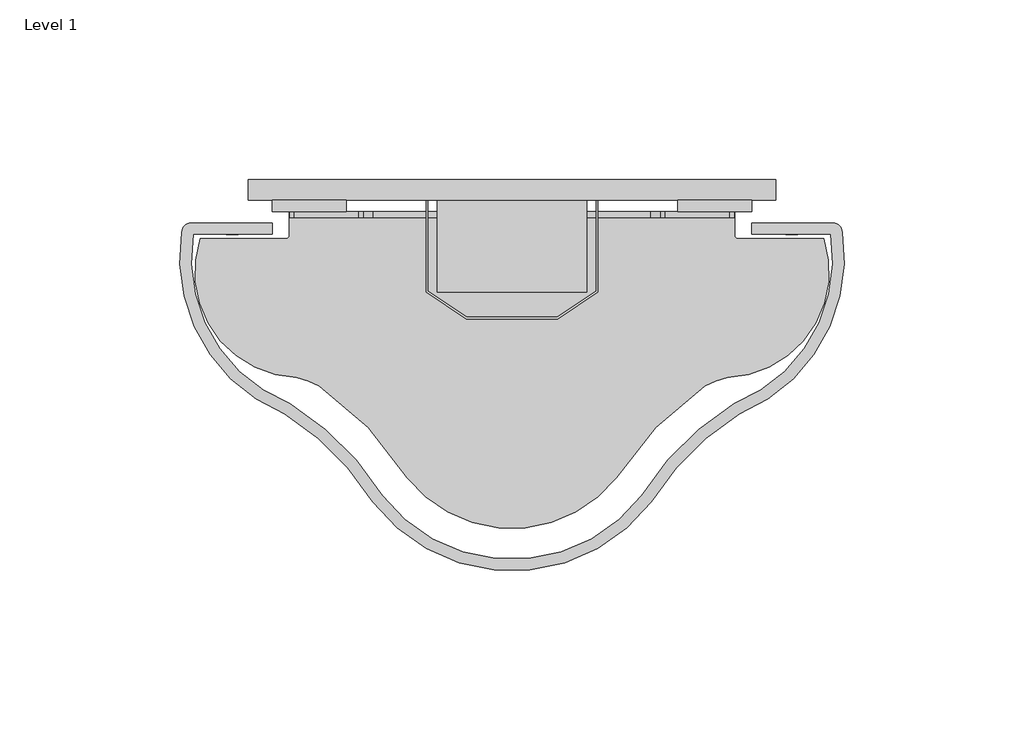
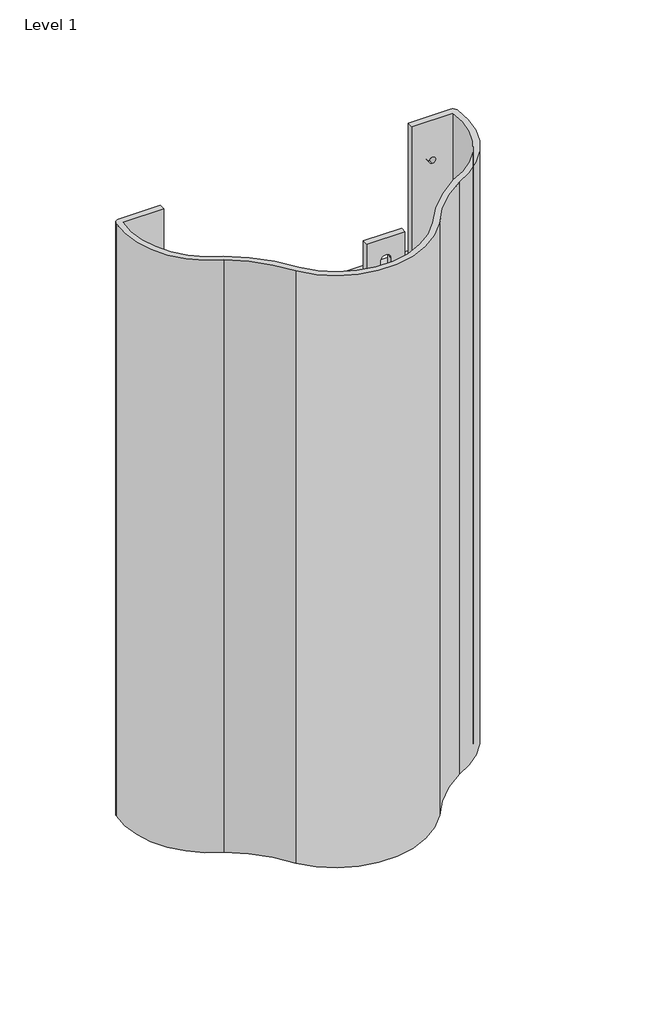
# One storey, incomplete: 2 proxies.
"""IFC4 building model written with IfcOpenShell, lengths in millimetres."""

from ifc_helpers import new_model, si_unit, point, frame, frame_2d, origin, origin_with_axes, place, context, project, spatial, polyline, circle_curve, trimmed, segment, composite_curve, outline, extrude, faceted_brep, element, save
from ifc_brep_helpers import plane_surface, cylinder_surface, revolved_surface, advanced_brep

model = new_model("IFC4")

# Units and contexts
model_context = context("Model", 3, world=origin())
ifc_project = project(units=[si_unit("LENGTHUNIT", "METRE", prefix="MILLI")], contexts=[model_context])

# Site, building, storey
site = spatial("IfcSite", under=ifc_project)
building = spatial("IfcBuilding", under=site)
storey = spatial("IfcBuildingStorey", under=building, Name="Level 1", Elevation=0.0)

# Proxies
placement = place(None, origin())
element("IfcBuildingElementProxy", 1, Name="Form : Form", ObjectType="Form : Form", at=placement, inside=storey, context=model_context, shape_type="AdvancedBrep", body=[
    advanced_brep(
    [(-91.7624814, -90.7354097, 336.4992), (-89.2402248, -88.2131532, 336.4992), (-89.2402248, -88.2131532, 0.0), (-91.7624814, -90.7354097, 0.0), (-63.2292352, -141.3534747, 0.0), (-63.2292352, -141.3534747, 336.4992), (-38.7547952, -165.8279147, 0.0), (-38.7547952, -165.8279147, 336.4992), (38.7478071, -165.8279147, 0.0), (38.7478071, -165.8279147, 336.4992), (63.2222471, -141.3534747, 0.0), (63.2222471, -141.3534747, 336.4992), (91.7554933, -90.7354097, 0.0), (91.7554933, -90.7354097, 336.4992), (89.2332368, -88.2131532, 0.0), (89.2332368, -88.2131532, 336.4992), (66.6602933, -88.2131532, 0.0), (66.6602933, -88.2131532, 336.4992), (77.7946873, -88.2131532, 311.804606), (77.7946873, -88.2131532, 315.208206), (77.7946873, -88.2131532, 172.104606), (77.7946873, -88.2131532, 175.508206), (77.7946873, -88.2131532, 32.404606), (77.7946873, -88.2131532, 35.808206), (-66.6672814, -88.2131532, 336.4992), (-66.6672814, -88.2131532, 0.0), (-77.8016753, -88.2131532, 315.208206), (-77.8016753, -88.2131532, 311.804606), (-77.8016753, -88.2131532, 175.508206), (-77.8016753, -88.2131532, 172.104606), (-77.8016753, -88.2131532, 35.808206), (-77.8016753, -88.2131532, 32.404606), (-66.6672814, -91.3881532, 0.0), (-88.6514364, -91.3881532, 0.0), (-61.7948182, -138.5079633, 0.0), (-36.1385371, -164.0223625, 0.0), (36.1315491, -164.0223625, 0.0), (61.7878301, -138.5079633, 0.0), (88.6444484, -91.3881532, 0.0), (66.6602933, -91.3881532, 0.0), (66.6602933, -91.3881532, 336.4992), (88.6444484, -91.3881532, 336.4992), (61.7878301, -138.5079633, 336.4992), (36.1315491, -164.0223625, 336.4992), (-36.1385371, -164.0223625, 336.4992), (-61.7948182, -138.5079633, 336.4992), (-88.6514364, -91.3881532, 336.4992), (-66.6672814, -91.3881532, 336.4992), (-77.8016753, -91.3881532, 311.804606), (-77.8016753, -91.3881532, 315.208206), (-77.8016753, -91.3881532, 172.104606), (-77.8016753, -91.3881532, 175.508206), (-77.8016753, -91.3881532, 32.404606), (-77.8016753, -91.3881532, 35.808206), (77.7946873, -91.3881532, 315.208206), (77.7946873, -91.3881532, 311.804606), (77.7946873, -91.3881532, 175.508206), (77.7946873, -91.3881532, 172.104606), (77.7946873, -91.3881532, 35.808206), (77.7946873, -91.3881532, 32.404606)],
    [
        (0, 1, circle_curve(frame((-89.2402248, -90.7354097, 336.4992), z_axis=(0.0, 0.0, -1.0), x_axis=(0.0, 1.0, 0.0)), 2.5222565)),
        (1, 2),
        (2, 3, circle_curve(frame((-89.2402248, -90.7354097, 0.0), z_axis=(0.0, 0.0, 1.0), x_axis=(0.0, 1.0, 0.0)), 2.5222565)),
        (3, 0),
        (3, 4, circle_curve(frame((-45.7464829, -98.1474179, 0.0), z_axis=(0.0, 0.0, 1.0), x_axis=(-0.9269872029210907, 0.37509295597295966, 0.0)), 46.609119)),
        (4, 5),
        (5, 0, circle_curve(frame((-45.7464829, -98.1474179, 336.4992), z_axis=(0.0, 0.0, -1.0), x_axis=(-0.9269872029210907, 0.37509295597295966, 0.0)), 46.609119)),
        (4, 6, circle_curve(frame((-102.950175, -205.5488546, 0.0), z_axis=(0.0, 0.0, -1.0), x_axis=(-0.526172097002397, 0.8503781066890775, 0.0)), 75.4903958)),
        (6, 7),
        (7, 5, circle_curve(frame((-102.950175, -205.5488546, 336.4992), z_axis=(0.0, 0.0, 1.0), x_axis=(-0.526172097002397, 0.8503781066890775, 0.0)), 75.4903958)),
        (6, 8, circle_curve(frame((-0.003494, -136.2831049, 0.0), z_axis=(0.0, 0.0, 1.0), x_axis=(-0.6063029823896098, -0.7952337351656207, 0.0)), 48.7294482)),
        (8, 9),
        (9, 7, circle_curve(frame((-0.003494, -136.2831049, 336.4992), z_axis=(0.0, 0.0, -1.0), x_axis=(-0.6063029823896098, -0.7952337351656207, 0.0)), 48.7294482)),
        (8, 10, circle_curve(frame((102.943187, -205.5488546, 0.0), z_axis=(0.0, 0.0, -1.0), x_axis=(-0.8503781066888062, -0.5261720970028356, 0.0)), 75.4903958)),
        (10, 11),
        (11, 9, circle_curve(frame((102.943187, -205.5488546, 336.4992), z_axis=(0.0, 0.0, 1.0), x_axis=(-0.8503781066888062, -0.5261720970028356, 0.0)), 75.4903958)),
        (10, 12, circle_curve(frame((45.7394949, -98.1474179, 0.0), z_axis=(0.0, 0.0, 1.0), x_axis=(0.15902485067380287, -0.9872745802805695, 0.0)), 46.609119)),
        (12, 13),
        (13, 11, circle_curve(frame((45.7394949, -98.1474179, 336.4992), z_axis=(0.0, 0.0, -1.0), x_axis=(0.15902485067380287, -0.9872745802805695, 0.0)), 46.609119)),
        (12, 14, circle_curve(frame((89.2332368, -90.7354097, 0.0), z_axis=(0.0, 0.0, 1.0), x_axis=(1.0, 0.0, 0.0)), 2.5222565)),
        (14, 15),
        (15, 13, circle_curve(frame((89.2332368, -90.7354097, 336.4992), z_axis=(0.0, 0.0, -1.0), x_axis=(1.0, 0.0, 0.0)), 2.5222565)),
        (14, 16),
        (16, 17),
        (17, 15),
        (18, 19, circle_curve(frame((77.7946873, -88.2131532, 313.506406), z_axis=(0.0, -1.0, 0.0), x_axis=(1.0, 0.0, 0.0)), 1.7018)),
        (19, 18, circle_curve(frame((77.7946873, -88.2131532, 313.506406), z_axis=(0.0, -1.0, 0.0), x_axis=(-1.0, 0.0, 0.0)), 1.7018)),
        (20, 21, circle_curve(frame((77.7946873, -88.2131532, 173.806406), z_axis=(0.0, -1.0, 0.0), x_axis=(1.0, 0.0, 0.0)), 1.7018)),
        (21, 20, circle_curve(frame((77.7946873, -88.2131532, 173.806406), z_axis=(0.0, -1.0, 0.0), x_axis=(-1.0, 0.0, 0.0)), 1.7018)),
        (22, 23, circle_curve(frame((77.7946873, -88.2131532, 34.106406), z_axis=(0.0, -1.0, 0.0), x_axis=(1.0, 0.0, 0.0)), 1.7018)),
        (23, 22, circle_curve(frame((77.7946873, -88.2131532, 34.106406), z_axis=(0.0, -1.0, 0.0), x_axis=(-1.0, 0.0, 0.0)), 1.7018)),
        (1, 24),
        (24, 25),
        (25, 2),
        (26, 27, circle_curve(frame((-77.8016753, -88.2131532, 313.506406), z_axis=(0.0, -1.0, 0.0), x_axis=(-1.0, 0.0, 0.0)), 1.7018)),
        (27, 26, circle_curve(frame((-77.8016753, -88.2131532, 313.506406), z_axis=(0.0, -1.0, 0.0), x_axis=(1.0, 0.0, 0.0)), 1.7018)),
        (28, 29, circle_curve(frame((-77.8016753, -88.2131532, 173.806406), z_axis=(0.0, -1.0, 0.0), x_axis=(-1.0, 0.0, 0.0)), 1.7018)),
        (29, 28, circle_curve(frame((-77.8016753, -88.2131532, 173.806406), z_axis=(0.0, -1.0, 0.0), x_axis=(1.0, 0.0, 0.0)), 1.7018)),
        (30, 31, circle_curve(frame((-77.8016753, -88.2131532, 34.106406), z_axis=(0.0, -1.0, 0.0), x_axis=(-1.0, 0.0, 0.0)), 1.7018)),
        (31, 30, circle_curve(frame((-77.8016753, -88.2131532, 34.106406), z_axis=(0.0, -1.0, 0.0), x_axis=(1.0, 0.0, 0.0)), 1.7018)),
        (25, 32),
        (32, 33),
        (33, 34, circle_curve(frame((-45.7464829, -98.1474179, 0.0), z_axis=(0.0, 0.0, 1.0), x_axis=(-0.9292359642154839, 0.3694868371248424, 0.0)), 43.434119)),
        (34, 35, circle_curve(frame((-102.950175, -205.5488546, 0.0), z_axis=(0.0, 0.0, -1.0), x_axis=(-0.5278876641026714, 0.8493142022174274, 0.0)), 78.6653958)),
        (35, 36, circle_curve(frame((-0.003494, -136.2831049, 0.0), z_axis=(0.0, 0.0, 1.0), x_axis=(-0.6089253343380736, -0.7932275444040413, 0.0)), 45.5544482)),
        (36, 37, circle_curve(frame((102.943187, -205.5488546, 0.0), z_axis=(0.0, 0.0, -1.0), x_axis=(-0.8522284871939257, -0.5231697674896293, 0.0)), 78.6653958)),
        (37, 38, circle_curve(frame((45.7394949, -98.1474179, 0.0), z_axis=(0.0, 0.0, 1.0), x_axis=(0.15562108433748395, -0.9878168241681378, 0.0)), 43.434119)),
        (38, 39),
        (39, 16),
        (17, 40),
        (40, 41),
        (41, 42, circle_curve(frame((45.7394949, -98.1474179, 336.4992), z_axis=(0.0, 0.0, -1.0), x_axis=(0.15562108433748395, -0.9878168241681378, 0.0)), 43.434119)),
        (42, 43, circle_curve(frame((102.943187, -205.5488546, 336.4992), z_axis=(0.0, 0.0, 1.0), x_axis=(-0.8522284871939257, -0.5231697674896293, 0.0)), 78.6653958)),
        (43, 44, circle_curve(frame((-0.003494, -136.2831049, 336.4992), z_axis=(0.0, 0.0, -1.0), x_axis=(-0.6089253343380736, -0.7932275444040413, 0.0)), 45.5544482)),
        (44, 45, circle_curve(frame((-102.950175, -205.5488546, 336.4992), z_axis=(0.0, 0.0, 1.0), x_axis=(-0.5278876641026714, 0.8493142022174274, 0.0)), 78.6653958)),
        (45, 46, circle_curve(frame((-45.7464829, -98.1474179, 336.4992), z_axis=(0.0, 0.0, -1.0), x_axis=(-0.9292359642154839, 0.3694868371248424, 0.0)), 43.434119)),
        (46, 47),
        (47, 24),
        (46, 33),
        (32, 47),
        (48, 49, circle_curve(frame((-77.8016753, -91.3881532, 313.506406), z_axis=(0.0, 1.0, 0.0), x_axis=(-1.0, 0.0, 0.0)), 1.7018)),
        (49, 48, circle_curve(frame((-77.8016753, -91.3881532, 313.506406), z_axis=(0.0, 1.0, 0.0), x_axis=(1.0, 0.0, 0.0)), 1.7018)),
        (50, 51, circle_curve(frame((-77.8016753, -91.3881532, 173.806406), z_axis=(0.0, 1.0, 0.0), x_axis=(-1.0, 0.0, 0.0)), 1.7018)),
        (51, 50, circle_curve(frame((-77.8016753, -91.3881532, 173.806406), z_axis=(0.0, 1.0, 0.0), x_axis=(1.0, 0.0, 0.0)), 1.7018)),
        (52, 53, circle_curve(frame((-77.8016753, -91.3881532, 34.106406), z_axis=(0.0, 1.0, 0.0), x_axis=(-1.0, 0.0, 0.0)), 1.7018)),
        (53, 52, circle_curve(frame((-77.8016753, -91.3881532, 34.106406), z_axis=(0.0, 1.0, 0.0), x_axis=(1.0, 0.0, 0.0)), 1.7018)),
        (39, 40),
        (38, 41),
        (54, 55, circle_curve(frame((77.7946873, -91.3881532, 313.506406), z_axis=(0.0, 1.0, 0.0), x_axis=(1.0, 0.0, 0.0)), 1.7018)),
        (55, 54, circle_curve(frame((77.7946873, -91.3881532, 313.506406), z_axis=(0.0, 1.0, 0.0), x_axis=(-1.0, 0.0, 0.0)), 1.7018)),
        (56, 57, circle_curve(frame((77.7946873, -91.3881532, 173.806406), z_axis=(0.0, 1.0, 0.0), x_axis=(1.0, 0.0, 0.0)), 1.7018)),
        (57, 56, circle_curve(frame((77.7946873, -91.3881532, 173.806406), z_axis=(0.0, 1.0, 0.0), x_axis=(-1.0, 0.0, 0.0)), 1.7018)),
        (58, 59, circle_curve(frame((77.7946873, -91.3881532, 34.106406), z_axis=(0.0, 1.0, 0.0), x_axis=(1.0, 0.0, 0.0)), 1.7018)),
        (59, 58, circle_curve(frame((77.7946873, -91.3881532, 34.106406), z_axis=(0.0, 1.0, 0.0), x_axis=(-1.0, 0.0, 0.0)), 1.7018)),
        (37, 42),
        (36, 43),
        (35, 44),
        (34, 45),
        (54, 19),
        (18, 55),
        (56, 21),
        (20, 57),
        (58, 23),
        (22, 59),
        (26, 49),
        (48, 27),
        (28, 51),
        (50, 29),
        (30, 53),
        (52, 31),
    ],
    [
        cylinder_surface(frame((-89.2402248, -90.7354097, 336.4992), z_axis=(0.0, 0.0, -1.0), x_axis=(0.0, 1.0, 0.0)), 2.5222565),
        cylinder_surface(frame((-45.7464829, -98.1474179, 336.4992), z_axis=(0.0, 0.0, -1.0), x_axis=(-0.9269872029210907, 0.37509295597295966, 0.0)), 46.609119),
        revolved_surface(polyline([(-142.67111486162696, -141.3534747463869, 0.0), (-142.67111486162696, -141.3534747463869, 336.4992)]), (-102.950175, -205.5488546, 336.4992), (0.0, 0.0, -1.0)),
        cylinder_surface(frame((-0.003494, -136.2831049, 336.4992), z_axis=(0.0, 0.0, -1.0), x_axis=(-0.6063029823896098, -0.7952337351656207, 0.0)), 48.7294482),
        revolved_surface(polyline([(38.74780714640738, -245.26979446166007, 0.0), (38.74780714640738, -245.26979446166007, 336.4992)]), (102.943187, -205.5488546, 336.4992), (0.0, 0.0, -1.0)),
        cylinder_surface(frame((45.7394949, -98.1474179, 336.4992), z_axis=(0.0, 0.0, -1.0), x_axis=(0.15902485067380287, -0.9872745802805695, 0.0)), 46.609119),
        cylinder_surface(frame((89.2332368, -90.7354097, 336.4992), z_axis=(0.0, 0.0, -1.0), x_axis=(1.0, 0.0, 0.0)), 2.5222565),
        plane_surface(frame((45.2023525, -88.2131532, 336.4992), z_axis=(0.0, 1.0, 0.0), x_axis=(1.0, 0.0, 0.0))),
        plane_surface(frame((-44.0343783, -88.2131532, 336.4992), z_axis=(0.0, 1.0, 0.0), x_axis=(1.0, 0.0, 0.0))),
        plane_surface(frame((-0.003494, -121.5324881, 0.0), z_axis=(0.0, 0.0, -1.0), x_axis=(1.0, 0.0, 0.0))),
        plane_surface(frame((-0.003494, -121.5324881, 336.4992), z_axis=(0.0, 0.0, 1.0), x_axis=(-1.0, 0.0, 0.0))),
        plane_surface(frame((-77.6593589, -91.3881532, 340.3040393), z_axis=(0.0, -1.0, 0.0), x_axis=(1.0, 0.0, 0.0))),
        plane_surface(frame((-66.6672814, -88.2131532, 340.3040393), z_axis=(1.0, 0.0, 0.0), x_axis=(0.0, 1.0, 0.0))),
        plane_surface(frame((66.6602933, -88.2131532, 340.3040393), z_axis=(-1.0, 0.0, 0.0), x_axis=(0.0, -1.0, 0.0))),
        plane_surface(frame((77.6523708, -91.3881532, 340.3040393), z_axis=(0.0, -1.0, 0.0), x_axis=(1.0, 0.0, 0.0))),
        revolved_surface(polyline([(52.49875959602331, -141.05237139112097, 0.0), (52.49875959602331, -141.05237139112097, 336.4992)]), (45.7394949, -98.1474179, 340.3040393), (0.0, 0.0, -1.0)),
        cylinder_surface(frame((102.943187, -205.5488546, 340.3040393), z_axis=(0.0, 0.0, -1.0), x_axis=(-0.8522284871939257, -0.5231697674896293, 0.0)), 78.6653958),
        revolved_surface(polyline([(-27.742751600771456, -172.41814798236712, 0.0), (-27.742751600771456, -172.41814798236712, 336.4992)]), (-0.003494, -136.2831049, 340.3040393), (0.0, 0.0, -1.0)),
        cylinder_surface(frame((-102.950175, -205.5488546, 340.3040393), z_axis=(0.0, 0.0, -1.0), x_axis=(-0.5278876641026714, 0.8493142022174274, 0.0)), 78.6653958),
        revolved_surface(polyline([(-86.10702834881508, -82.09908264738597, 0.0), (-86.10702834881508, -82.09908264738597, 336.4992)]), (-45.7464829, -98.1474179, 340.3040393), (0.0, 0.0, -1.0)),
        revolved_surface(polyline([(79.49648730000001, -88.2131532, 313.506406), (79.49648730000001, -91.3881532, 313.506406)]), (77.7946873, -91.3881532, 313.506406), (0.0, 1.0, 0.0)),
        revolved_surface(polyline([(76.0928873, -88.2131532, 313.506406), (76.0928873, -91.3881532, 313.506406)]), (77.7946873, -91.3881532, 313.506406), (0.0, 1.0, 0.0)),
        revolved_surface(polyline([(79.49648730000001, -88.2131532, 173.806406), (79.49648730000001, -91.3881532, 173.806406)]), (77.7946873, -91.3881532, 173.806406), (0.0, 1.0, 0.0)),
        revolved_surface(polyline([(76.0928873, -88.2131532, 173.806406), (76.0928873, -91.3881532, 173.806406)]), (77.7946873, -91.3881532, 173.806406), (0.0, 1.0, 0.0)),
        revolved_surface(polyline([(79.49648730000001, -88.2131532, 34.106406), (79.49648730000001, -91.3881532, 34.106406)]), (77.7946873, -91.3881532, 34.106406), (0.0, 1.0, 0.0)),
        revolved_surface(polyline([(76.0928873, -88.2131532, 34.106406), (76.0928873, -91.3881532, 34.106406)]), (77.7946873, -91.3881532, 34.106406), (0.0, 1.0, 0.0)),
        revolved_surface(polyline([(-79.5034753, -88.2131532, 313.506406), (-79.5034753, -91.3881532, 313.506406)]), (-77.8016753, -91.3881532, 313.506406), (0.0, 1.0, 0.0)),
        revolved_surface(polyline([(-76.0998753, -88.2131532, 313.506406), (-76.0998753, -91.3881532, 313.506406)]), (-77.8016753, -91.3881532, 313.506406), (0.0, 1.0, 0.0)),
        revolved_surface(polyline([(-79.5034753, -88.2131532, 173.806406), (-79.5034753, -91.3881532, 173.806406)]), (-77.8016753, -91.3881532, 173.806406), (0.0, 1.0, 0.0)),
        revolved_surface(polyline([(-76.0998753, -88.2131532, 173.806406), (-76.0998753, -91.3881532, 173.806406)]), (-77.8016753, -91.3881532, 173.806406), (0.0, 1.0, 0.0)),
        revolved_surface(polyline([(-79.5034753, -88.2131532, 34.106406), (-79.5034753, -91.3881532, 34.106406)]), (-77.8016753, -91.3881532, 34.106406), (0.0, 1.0, 0.0)),
        revolved_surface(polyline([(-76.0998753, -88.2131532, 34.106406), (-76.0998753, -91.3881532, 34.106406)]), (-77.8016753, -91.3881532, 34.106406), (0.0, 1.0, 0.0)),
    ],
    [
        (0, [[1, 2, 3, 4]]),
        (1, [[-4, 5, 6, 7]]),
        (2, [[-6, 8, 9, 10]]),
        (3, [[-9, 11, 12, 13]]),
        (4, [[-12, 14, 15, 16]]),
        (5, [[-15, 17, 18, 19]]),
        (6, [[-18, 20, 21, 22]]),
        (7, [[-21, 23, 24, 25], [26, 27], [28, 29], [30, 31]]),
        (8, [[-2, 32, 33, 34], [35, 36], [37, 38], [39, 40]]),
        (9, [[-3, -34, 41, 42, 43, 44, 45, 46, 47, 48, 49, -23, -20, -17, -14, -11, -8, -5]]),
        (10, [[-1, -7, -10, -13, -16, -19, -22, -25, 50, 51, 52, 53, 54, 55, 56, 57, 58, -32]]),
        (11, [[59, -42, 60, -57], [61, 62], [63, 64], [65, 66]]),
        (12, [[-60, -41, -33, -58]]),
        (13, [[67, -50, -24, -49]]),
        (14, [[-67, -48, 68, -51], [69, 70], [71, 72], [73, 74]]),
        (15, [[-68, -47, 75, -52]]),
        (16, [[-75, -46, 76, -53]]),
        (17, [[-76, -45, 77, -54]]),
        (18, [[-77, -44, 78, -55]]),
        (19, [[-59, -56, -78, -43]]),
        (20, [[79, -26, 80, -69]]),
        (21, [[-79, -70, -80, -27]]),
        (22, [[81, -28, 82, -71]]),
        (23, [[-81, -72, -82, -29]]),
        (24, [[83, -30, 84, -73]]),
        (25, [[-83, -74, -84, -31]]),
        (26, [[85, -61, 86, -35]]),
        (27, [[-85, -36, -86, -62]]),
        (28, [[87, -63, 88, -37]]),
        (29, [[-87, -38, -88, -64]]),
        (30, [[89, -65, 90, -39]]),
        (31, [[-89, -40, -90, -66]]),
    ],
),
])
element("IfcBuildingElementProxy", 2, Name="Mechanism : Mechanism", ObjectType="Mechanism : Mechanism", at=placement, inside=storey, context=model_context, shape_type="SolidModel", body=[
    extrude(outline(polyline([(73.2934222, -76.1995214), (73.2934222, -81.8637214), (-73.3153778, -81.8637214), (-73.3153778, -76.1995214), (73.2934222, -76.1995214)])), origin_with_axes(), (0.0, 0.0, 1.0), 254.5588),
    extrude(outline(polyline([(20.7408222, -76.1995214), (20.7408222, -107.4669214), (-20.7627778, -107.4669214), (-20.7627778, -76.1995214), (20.7408222, -76.1995214)])), frame((0.0, 0.0, 84.6328), z_axis=(0.0, 0.0, 1.0), x_axis=(1.0, 0.0, 0.0)), (0.0, 0.0, 1.0), 126.7206),
    extrude(outline(composite_curve([segment(polyline([(61.8776095, -85.0387214), (61.8776095, -91.5919214)]), True, "CONTINUOUS"), segment(trimmed(circle_curve(frame_2d((62.8682095, -91.5919214)), 0.9906), [point((61.8776095, -91.5919214))], [point((62.8682095, -92.5825214))], True, "CARTESIAN"), True, "CONTINUOUS"), segment(polyline([(62.8682095, -92.5825214), (86.6859114, -92.5825214)]), True, "CONTINUOUS"), segment(trimmed(circle_curve(frame_2d((58.6712993, -101.758735)), 29.4791688), [point((86.6859114, -92.5825214))], [point((59.8438222, -131.2145762))], False, "CARTESIAN"), True, "CONTINUOUS"), segment(trimmed(circle_curve(frame_2d((63.2780667, -150.0349978)), 19.1311867), [point((59.8438222, -131.2145762))], [point((53.5736818, -133.5478143))], True, "CARTESIAN"), True, "CONTINUOUS"), segment(trimmed(circle_curve(frame_2d((102.9357032, -205.5494228)), 87.2974271), [point((53.5736818, -133.5478143))], [point((29.0362364, -159.0767471))], True, "CARTESIAN"), True, "CONTINUOUS"), segment(trimmed(circle_curve(frame_2d((-0.0109778, -136.2836731)), 36.922417), [point((29.0362364, -159.0767471))], [point((-29.0581921, -159.0767471))], False, "CARTESIAN"), True, "CONTINUOUS"), segment(trimmed(circle_curve(frame_2d((-102.9576589, -205.5494228)), 87.2974271), [point((-29.0581921, -159.0767471))], [point((-53.5956375, -133.5478143))], True, "CARTESIAN"), True, "CONTINUOUS"), segment(trimmed(circle_curve(frame_2d((-63.3000224, -150.0349978)), 19.1311867), [point((-53.5956375, -133.5478143))], [point((-59.8657779, -131.2145762))], True, "CARTESIAN"), True, "CONTINUOUS"), segment(trimmed(circle_curve(frame_2d((-58.693255, -101.758735)), 29.4791688), [point((-59.8657779, -131.2145762))], [point((-86.7078671, -92.5825214))], False, "CARTESIAN"), True, "CONTINUOUS"), segment(polyline([(-86.7078671, -92.5825214), (-62.8901652, -92.5825214)]), True, "CONTINUOUS"), segment(trimmed(circle_curve(frame_2d((-62.8901652, -91.5919214)), 0.9906), [point((-62.8901652, -92.5825214))], [point((-61.8995652, -91.5919214))], True, "CARTESIAN"), True, "CONTINUOUS"), segment(polyline([(-61.8995652, -91.5919214), (-61.8995652, -85.0387214), (61.8776095, -85.0387214)]), True, "CONTINUOUS")], self_intersect=False)), frame((0.0, 0.0, 2.38125), z_axis=(0.0, 0.0, 1.0), x_axis=(1.0, 0.0, 0.0)), (0.0, 0.0, 1.0), 1.5875),
    extrude(outline(polyline([(284.0896944, -46.0372652), (284.0896944, -66.6747652), (34.8742, -66.6747652), (34.8742, -46.0372652), (284.0896944, -46.0372652)]), holes=[composite_curve([segment(polyline([(254.4703276, -59.1459926), (260.6218901, -59.1459926)]), True, "CONTINUOUS"), segment(trimmed(circle_curve(frame_2d((260.6218901, -56.3678676)), 2.778125), [point((260.6218901, -59.1459926))], [point((260.6218901, -53.5897426))], True, "CARTESIAN"), True, "CONTINUOUS"), segment(polyline([(260.6218901, -53.5897426), (254.4703276, -53.5897426)]), True, "CONTINUOUS"), segment(trimmed(circle_curve(frame_2d((249.9869385, -56.3678676)), 5.2743489), [point((254.4703276, -53.5897426))], [point((254.4703276, -59.1459926))], True, "CARTESIAN"), True, "CONTINUOUS")], self_intersect=False), composite_curve([segment(polyline([(47.2515099, -59.1459926), (53.4030724, -59.1459926)]), True, "CONTINUOUS"), segment(trimmed(circle_curve(frame_2d((57.8864615, -56.3678676)), 5.2743489), [point((53.4030724, -59.1459926))], [point((53.4030724, -53.5897426))], True, "CARTESIAN"), True, "CONTINUOUS"), segment(polyline([(53.4030724, -53.5897426), (47.2515099, -53.5897426)]), True, "CONTINUOUS"), segment(trimmed(circle_curve(frame_2d((47.2515099, -56.3678676)), 2.778125), [point((47.2515099, -53.5897426))], [point((47.2515099, -59.1459926))], True, "CARTESIAN"), True, "CONTINUOUS")], self_intersect=False)]), frame((0.0, -85.0387214, 0.0), z_axis=(0.0, 1.0, 0.0), x_axis=(0.0, 0.0, 1.0)), (0.0, 0.0, 1.0), 3.175),
    extrude(outline(polyline([(272.9992, 66.6528095), (272.9992, 46.0153095), (34.8742, 46.0153095), (34.8742, 66.6528095), (272.9992, 66.6528095)]), holes=[composite_curve([segment(polyline([(260.6218901, 59.1240369), (254.4703276, 59.1240369)]), True, "CONTINUOUS"), segment(trimmed(circle_curve(frame_2d((249.9869385, 56.3459119)), 5.2743489), [point((254.4703276, 59.1240369))], [point((254.4703276, 53.5677869))], True, "CARTESIAN"), True, "CONTINUOUS"), segment(polyline([(254.4703276, 53.5677869), (260.6218901, 53.5677869)]), True, "CONTINUOUS"), segment(trimmed(circle_curve(frame_2d((260.6218901, 56.3459119)), 2.778125), [point((260.6218901, 53.5677869))], [point((260.6218901, 59.1240369))], True, "CARTESIAN"), True, "CONTINUOUS")], self_intersect=False), composite_curve([segment(polyline([(53.4030724, 59.1240369), (47.2515099, 59.1240369)]), True, "CONTINUOUS"), segment(trimmed(circle_curve(frame_2d((47.2515099, 56.3459119)), 2.778125), [point((47.2515099, 59.1240369))], [point((47.2515099, 53.5677869))], True, "CARTESIAN"), True, "CONTINUOUS"), segment(polyline([(47.2515099, 53.5677869), (53.4030724, 53.5677869)]), True, "CONTINUOUS"), segment(trimmed(circle_curve(frame_2d((57.8864615, 56.3459119)), 5.2743489), [point((53.4030724, 53.5677869))], [point((53.4030724, 59.1240369))], True, "CARTESIAN"), True, "CONTINUOUS")], self_intersect=False)]), frame((0.0, -85.0387214, 0.0), z_axis=(0.0, 1.0, 0.0), x_axis=(0.0, 0.0, 1.0)), (0.0, 0.0, 1.0), 3.175),
    extrude(outline(composite_curve([segment(polyline([(4.1005947, -61.802302), (4.1005947, 61.7803463), (29.0129475, 61.7803463)]), True, "CONTINUOUS"), segment(trimmed(circle_curve(frame_2d((28.6728484, 60.3864535)), 1.4347838), [point((29.0129475, 61.7803463))], [point((30.099, 60.5436043))], False, "CARTESIAN"), True, "CONTINUOUS"), segment(polyline([(30.099, 60.5436043), (30.099, 42.6437354)]), True, "CONTINUOUS"), segment(trimmed(circle_curve(frame_2d((31.5026259, 42.6437354)), 1.4036259), [point((30.099, 42.6437354))], [point((31.5026259, 41.2401095))], True, "CARTESIAN"), True, "CONTINUOUS"), segment(polyline([(31.5026259, 41.2401095), (51.2016556, 41.2401095)]), True, "CONTINUOUS"), segment(trimmed(circle_curve(frame_2d((51.2016556, 38.5175651)), 2.7225444), [point((51.2016556, 41.2401095))], [point((53.9242, 38.5175651))], False, "CARTESIAN"), True, "CONTINUOUS"), segment(polyline([(53.9242, 38.5175651), (53.9242, -0.0109778), (53.9242, -38.5395208)]), True, "CONTINUOUS"), segment(trimmed(circle_curve(frame_2d((51.2016556, -38.5395208)), 2.7225444), [point((53.9242, -38.5395208))], [point((51.2016556, -41.2620652))], False, "CARTESIAN"), True, "CONTINUOUS"), segment(polyline([(51.2016556, -41.2620652), (31.5026259, -41.2620652)]), True, "CONTINUOUS"), segment(trimmed(circle_curve(frame_2d((31.5026259, -42.6656911)), 1.4036259), [point((31.5026259, -41.2620652))], [point((30.099, -42.6656911))], True, "CARTESIAN"), True, "CONTINUOUS"), segment(polyline([(30.099, -42.6656911), (30.099, -60.56556)]), True, "CONTINUOUS"), segment(trimmed(circle_curve(frame_2d((28.6728484, -60.4084092)), 1.4347838), [point((30.099, -60.56556))], [point((29.0129475, -61.802302))], False, "CARTESIAN"), True, "CONTINUOUS"), segment(polyline([(29.0129475, -61.802302), (4.1005947, -61.802302)]), True, "CONTINUOUS")], self_intersect=False), holes=[composite_curve([segment(trimmed(circle_curve(frame_2d((45.3933458, 25.5492059)), 1.8796), [point((45.3933458, 27.4288059))], [point((45.3933458, 23.6696059))], True, "CARTESIAN"), True, "CONTINUOUS"), segment(trimmed(circle_curve(frame_2d((45.3933458, 25.5492059)), 1.8796), [point((45.3933458, 23.6696059))], [point((45.3933458, 27.4288059))], True, "CARTESIAN"), True, "CONTINUOUS")], self_intersect=False), composite_curve([segment(trimmed(circle_curve(frame_2d((45.3933458, -25.5711616)), 1.8796), [point((45.3933458, -23.6915616))], [point((45.3933458, -27.4507616))], True, "CARTESIAN"), True, "CONTINUOUS"), segment(trimmed(circle_curve(frame_2d((45.3933458, -25.5711616)), 1.8796), [point((45.3933458, -27.4507616))], [point((45.3933458, -23.6915616))], True, "CARTESIAN"), True, "CONTINUOUS")], self_intersect=False)]), frame((0.0, -86.6389214, 0.0), z_axis=(0.0, 1.0, 0.0), x_axis=(0.0, 0.0, 1.0)), (0.0, 0.0, 1.0), 1.6002),
    faceted_brep([(23.8142222, -107.4669214, 28.8544), (23.8142222, -81.8637214, 28.8544), (23.8142222, -80.2661601, 225.7044), (23.8142222, -107.4669214, 225.7044), (23.2189097, -81.8637214, 28.8544), (23.2189097, -81.0413615, 130.1848155), (-23.2408653, -81.0413615, 130.1848155), (-23.2408653, -81.8637214, 28.8544), (-23.8361778, -81.8637214, 28.8544), (-23.8361778, -80.2661601, 225.7044), (-23.8361778, -107.4669214, 28.8544), (-23.8361778, -107.4669214, 225.7044), (-12.7109778, -114.8837214, 28.8544), (-12.7109778, -114.8837214, 225.7044), (12.6890222, -114.8837214, 28.8544), (12.6890222, -114.8837214, 225.7044), (-12.5307317, -114.2884089, 225.7044), (-23.2408653, -107.1483198, 225.7044), (-23.2408653, -81.0413615, 225.7044), (23.2189097, -81.0413615, 225.7044), (23.2189097, -107.1483198, 225.7044), (12.508776, -114.2884089, 225.7044), (-23.2408653, -107.1483198, 28.8544), (-12.5307317, -114.2884089, 28.8544), (12.508776, -114.2884089, 28.8544), (23.2189097, -107.1483198, 28.8544)], [[[0, 1, 2, 3]], [[2, 1, 4, 5, 6, 7, 8, 9]], [[9, 8, 10, 11]], [[11, 10, 12, 13]], [[13, 12, 14, 15]], [[0, 3, 15, 14]], [[3, 2, 9, 11, 13, 15], [16, 17, 18, 19, 20, 21]], [[1, 0, 14, 12, 10, 8, 7, 22, 23, 24, 25, 4]], [[22, 17, 16, 23]], [[23, 16, 21, 24]], [[24, 21, 20, 25]], [[25, 20, 19, 5, 4]], [[5, 19, 18, 6]], [[17, 22, 7, 6, 18]]]),
])

save(model, "model.ifc")
